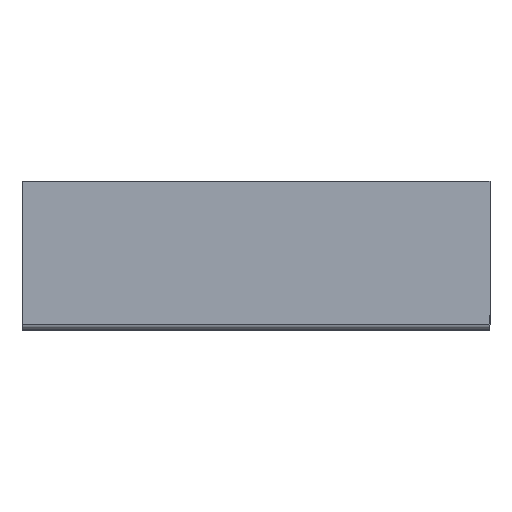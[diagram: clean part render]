
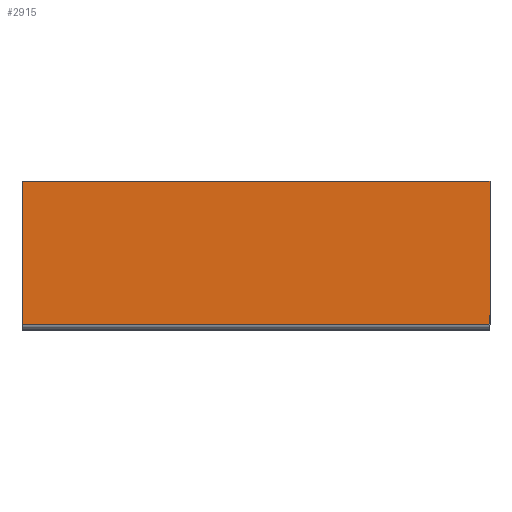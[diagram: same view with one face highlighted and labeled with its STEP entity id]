
A CAD part, top view. The second image highlights one B-rep face of the part: STEP entity #2915.
In plain terms, the highlighted planar face has unit normal (0, 0, 1).
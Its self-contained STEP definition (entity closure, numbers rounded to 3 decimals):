
#56 = EDGE_CURVE ( 'NONE', #2875, #2131, #760, .T. ) ;
#193 = EDGE_CURVE ( 'NONE', #2106, #2875, #850, .T. ) ;
#198 = VECTOR ( 'NONE', #988, 1000. ) ;
#213 = VERTEX_POINT ( 'NONE', #3521 ) ;
#576 = EDGE_CURVE ( 'NONE', #2131, #213, #3108, .T. ) ;
#671 = CARTESIAN_POINT ( 'NONE',  ( 504.203, 35.218, 342. ) ) ;
#753 = PLANE ( 'NONE',  #1565 ) ;
#760 = LINE ( 'NONE', #2863, #3546 ) ;
#850 = LINE ( 'NONE', #2961, #198 ) ;
#914 = CARTESIAN_POINT ( 'NONE',  ( 299.422, -90.482, 342. ) ) ;
#988 = DIRECTION ( 'NONE',  ( 1., 0., 0. ) ) ;
#1198 = ORIENTED_EDGE ( 'NONE', *, *, #576, .T. ) ;
#1506 = CARTESIAN_POINT ( 'NONE',  ( 299.422, -27.482, 342. ) ) ;
#1565 = AXIS2_PLACEMENT_3D ( 'NONE', #1609, #2157, #1877 ) ;
#1609 = CARTESIAN_POINT ( 'NONE',  ( -41.678, -28.082, 342. ) ) ;
#1877 = DIRECTION ( 'NONE',  ( 1., 0., 0. ) ) ;
#1924 = DIRECTION ( 'NONE',  ( -1., 0., 0. ) ) ;
#2106 = VERTEX_POINT ( 'NONE', #1506 ) ;
#2131 = VERTEX_POINT ( 'NONE', #671 ) ;
#2157 = DIRECTION ( 'NONE',  ( 0., 0., 1. ) ) ;
#2181 = EDGE_CURVE ( 'NONE', #2106, #213, #2911, .T. ) ;
#2209 = VECTOR ( 'NONE', #1924, 1000. ) ;
#2468 = ORIENTED_EDGE ( 'NONE', *, *, #2181, .F. ) ;
#2502 = CARTESIAN_POINT ( 'NONE',  ( -41.678, 35.218, 342. ) ) ;
#2543 = ORIENTED_EDGE ( 'NONE', *, *, #56, .T. ) ;
#2579 = DIRECTION ( 'NONE',  ( 0., 1., 0. ) ) ;
#2713 = CARTESIAN_POINT ( 'NONE',  ( 504.203, -27.482, 342. ) ) ;
#2863 = CARTESIAN_POINT ( 'NONE',  ( 504.203, -24.082, 342. ) ) ;
#2872 = DIRECTION ( 'NONE',  ( 0., 1., 0. ) ) ;
#2875 = VERTEX_POINT ( 'NONE', #2713 ) ;
#2911 = LINE ( 'NONE', #914, #3254 ) ;
#2915 = ADVANCED_FACE ( 'NONE', ( #3134 ), #753, .T. ) ;
#2961 = CARTESIAN_POINT ( 'NONE',  ( -41.678, -27.482, 342. ) ) ;
#3078 = ORIENTED_EDGE ( 'NONE', *, *, #193, .T. ) ;
#3108 = LINE ( 'NONE', #2502, #2209 ) ;
#3134 = FACE_OUTER_BOUND ( 'NONE', #3582, .T. ) ;
#3254 = VECTOR ( 'NONE', #2872, 1000. ) ;
#3521 = CARTESIAN_POINT ( 'NONE',  ( 299.422, 35.218, 342. ) ) ;
#3546 = VECTOR ( 'NONE', #2579, 1000. ) ;
#3582 = EDGE_LOOP ( 'NONE', ( #1198, #2468, #3078, #2543 ) ) ;
